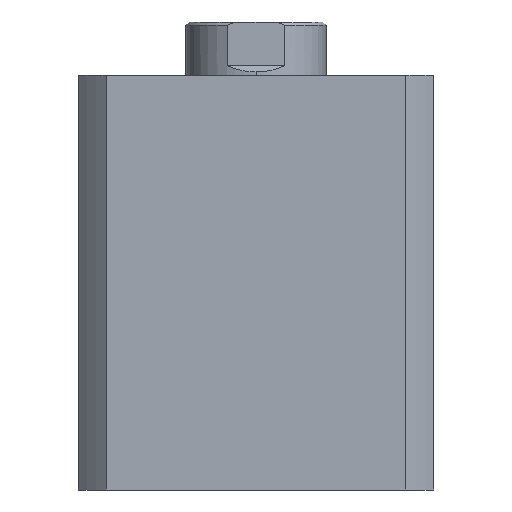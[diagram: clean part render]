
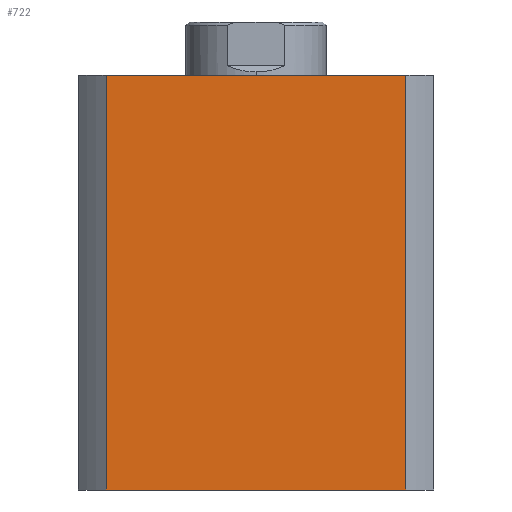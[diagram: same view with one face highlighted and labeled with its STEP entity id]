
A CAD part, left-side view. The second image highlights one B-rep face of the part: STEP entity #722.
In plain terms, the highlighted planar face has unit normal (-1, 0, 0).
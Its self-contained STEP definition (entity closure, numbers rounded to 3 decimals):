
#291 = ORIENTED_EDGE ( 'NONE', *, *, #2471, .T. ) ;
#292 = ORIENTED_EDGE ( 'NONE', *, *, #2439, .T. ) ;
#295 = ORIENTED_EDGE ( 'NONE', *, *, #2473, .F. ) ;
#296 = ORIENTED_EDGE ( 'NONE', *, *, #2474, .F. ) ;
#533 = LINE ( 'NONE', #5045, #537 ) ;
#537 = VECTOR ( 'NONE', #5046, 1000. ) ;
#575 = LINE ( 'NONE', #2098, #578 ) ;
#578 = VECTOR ( 'NONE', #2066, 1000. ) ;
#579 = LINE ( 'NONE', #2084, #581 ) ;
#580 = LINE ( 'NONE', #2085, #583 ) ;
#581 = VECTOR ( 'NONE', #2094, 1000. ) ;
#583 = VECTOR ( 'NONE', #2100, 1000. ) ;
#722 = ADVANCED_FACE ( 'NONE', ( #3874 ), #2236, .F. ) ;
#914 = EDGE_LOOP ( 'NONE', ( #292, #295, #296, #291 ) ) ;
#1608 = AXIS2_PLACEMENT_3D ( 'NONE', #2241, #2233, #2232 ) ;
#2066 = DIRECTION ( 'NONE',  ( 0., 0., -1. ) ) ;
#2084 = CARTESIAN_POINT ( 'NONE',  ( -57., -47.971, 133. ) ) ;
#2085 = CARTESIAN_POINT ( 'NONE',  ( -57., 0., 133. ) ) ;
#2094 = DIRECTION ( 'NONE',  ( 0., 0., -1. ) ) ;
#2098 = CARTESIAN_POINT ( 'NONE',  ( -57., 47.971, 133. ) ) ;
#2100 = DIRECTION ( 'NONE',  ( 0., -1., 0. ) ) ;
#2232 = DIRECTION ( 'NONE',  ( 0., 0., -1. ) ) ;
#2233 = DIRECTION ( 'NONE',  ( 1., 0., 0. ) ) ;
#2236 = PLANE ( 'NONE',  #1608 ) ;
#2241 = CARTESIAN_POINT ( 'NONE',  ( -57., 0., 133. ) ) ;
#2439 = EDGE_CURVE ( 'NONE', #3376, #3449, #533, .T. ) ;
#2471 = EDGE_CURVE ( 'NONE', #3324, #3376, #575, .T. ) ;
#2473 = EDGE_CURVE ( 'NONE', #3416, #3449, #579, .T. ) ;
#2474 = EDGE_CURVE ( 'NONE', #3324, #3416, #580, .T. ) ;
#2720 = CARTESIAN_POINT ( 'NONE',  ( -57., 47.971, 0. ) ) ;
#2763 = CARTESIAN_POINT ( 'NONE',  ( -57., 47.971, 133. ) ) ;
#2792 = CARTESIAN_POINT ( 'NONE',  ( -57., -47.971, 0. ) ) ;
#2850 = CARTESIAN_POINT ( 'NONE',  ( -57., -47.971, 133. ) ) ;
#3324 = VERTEX_POINT ( 'NONE', #2763 ) ;
#3376 = VERTEX_POINT ( 'NONE', #2720 ) ;
#3416 = VERTEX_POINT ( 'NONE', #2850 ) ;
#3449 = VERTEX_POINT ( 'NONE', #2792 ) ;
#3874 = FACE_OUTER_BOUND ( 'NONE', #914, .T. ) ;
#5045 = CARTESIAN_POINT ( 'NONE',  ( -57., 0., 0. ) ) ;
#5046 = DIRECTION ( 'NONE',  ( 0., -1., 0. ) ) ;
